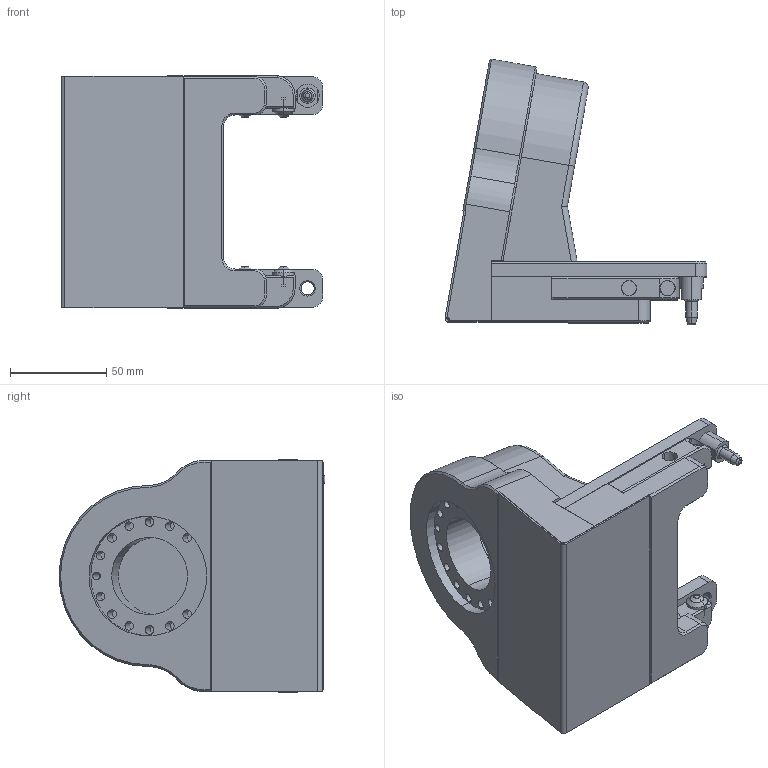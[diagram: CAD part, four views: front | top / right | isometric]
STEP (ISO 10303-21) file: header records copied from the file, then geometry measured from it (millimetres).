
FILE_DESCRIPTION (( 'STEP AP203' ), '1' );
FILE_NAME ('66800.STEP', '2017-05-30T13:52:58', ( '' ), ( '' ), 'SwSTEP 2.0', 'SolidWorks 2015', '' );
FILE_SCHEMA (( 'CONFIG_CONTROL_DESIGN' ));
Length unit declared in the file: millimetre
Products named in the file (1): 66800
Bounding box: 135.95 x 138 x 120.61 mm (x, y, z)
Volume: 457042 mm3; surface area: 155459.3 mm2
Topology: 12 solids, 12 shells, 430 faces, 1008 edges, 619 vertices
Faces by surface type: plane 171, cylinder 139, cone 82, torus 38
Entity records: 12503 total; most frequent: CARTESIAN_POINT 2272, DIRECTION 2258, ORIENTED_EDGE 2016, EDGE_CURVE 1008, AXIS2_PLACEMENT_3D 849, VERTEX_POINT 619, VECTOR 560, LINE 560
